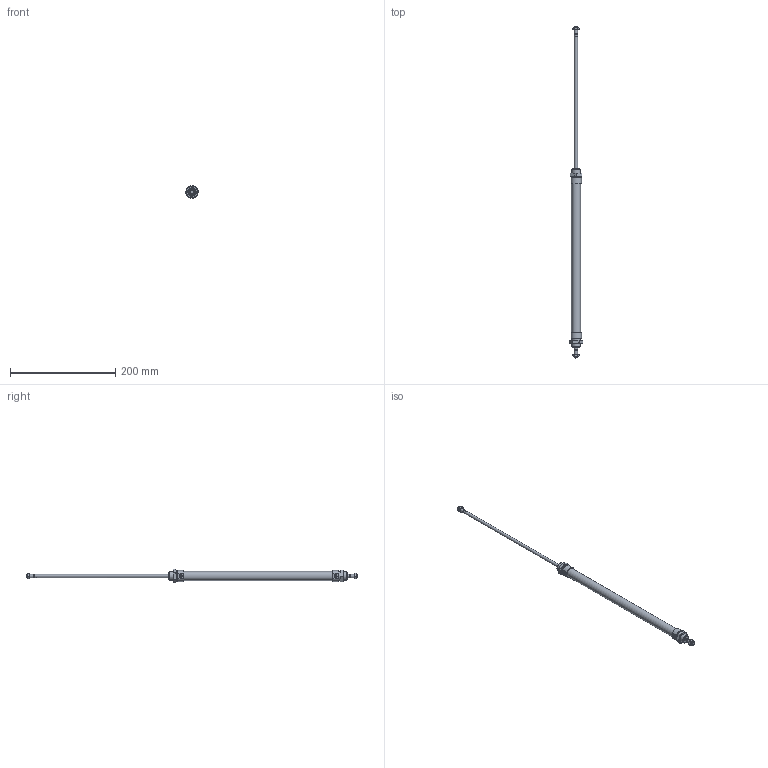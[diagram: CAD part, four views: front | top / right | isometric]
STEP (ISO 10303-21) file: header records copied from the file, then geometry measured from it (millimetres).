
FILE_DESCRIPTION((''),'2;1');
FILE_NAME('I:\Area Tecnica\Disegni\VARIE-3D\Componenti\1280\1282_##_####_#\1282_16_0250.iam.stp','2009-06-03T15:24:56',(''),(''),'Autodesk Inventor 2010','Autodesk Inventor 2010','');
FILE_SCHEMA(('AUTOMOTIVE_DESIGN { 1 0 10303 214 1 1 1 1 }'));
Length unit declared in the file: millimetre
Products named in the file (5): 1282_16_0250; C1282_16_250; S1282_16_250; 1200_16_05; 1200_16_06
Assembly tree (6 placements, depth 2):
  1282_16_0250
    C1282_16_250
    S1282_16_250
    1200_16_05  x2
    1200_16_06  x2
Bounding box: 25.4 x 632 x 25.4 mm (x, y, z)
Volume: 91688.3 mm3; surface area: 40736.7 mm2
Topology: 6 solids, 6 shells, 135 faces, 283 edges, 168 vertices
Faces by surface type: plane 56, cone 52, bspline 16, cylinder 11
Full cylindrical faces by diameter (mm): 5 x2, 6 x4, 16 x2, 17.2 x1
Entity records: 2543 total; most frequent: CARTESIAN_POINT 619, DIRECTION 358, ORIENTED_EDGE 316, AXIS2_PLACEMENT_3D 159, EDGE_CURVE 158, EDGE_LOOP 124, VERTEX_POINT 106, STYLED_ITEM 93
